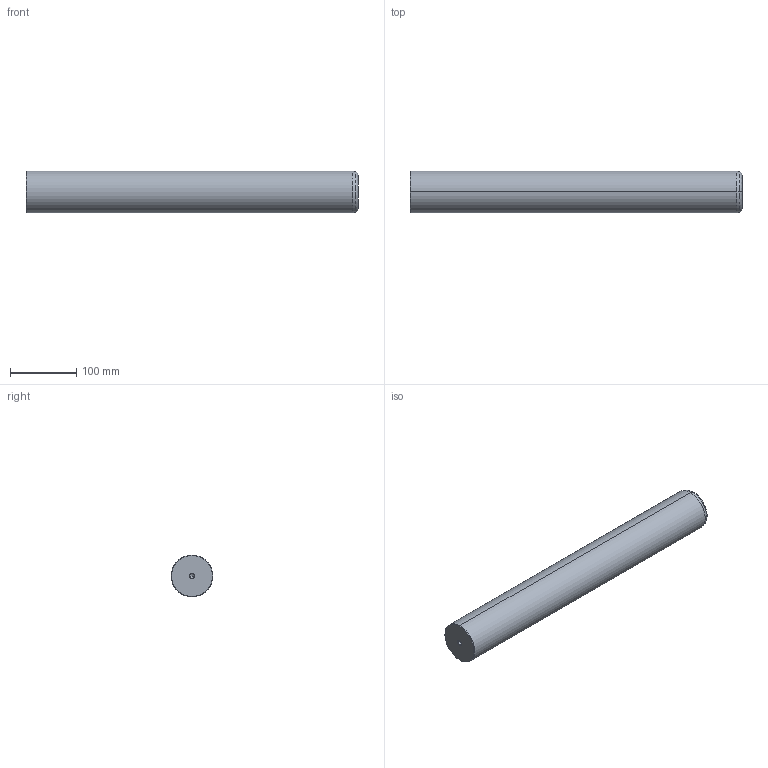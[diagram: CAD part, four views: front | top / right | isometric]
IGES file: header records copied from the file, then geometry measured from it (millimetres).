
Start section: START RECORD GO HERE.
Global section: file name: 720-63x500.igs; native system: DASSAULT SYSTEMES CATIA V5 R20 - www.3ds.com; preprocessor: CATIA Version 5 Release 20 ; author: Utente; organization: NB04-ASUS; date: 20201230.222509; units: millimetre
Bounding box: 500 x 63 x 63 mm (x, y, z)
Surface area: 105482.7 mm2 (no closed solid volume)
Topology: 0 solids, 0 shells, 22 faces, 120 edges, 116 vertices
Faces by surface type: revolution 20, plane 2
